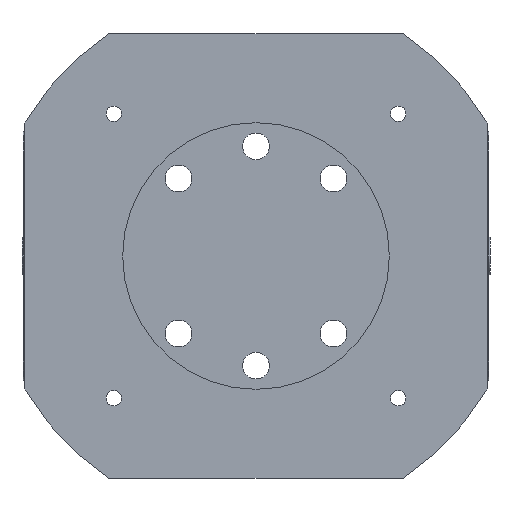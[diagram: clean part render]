
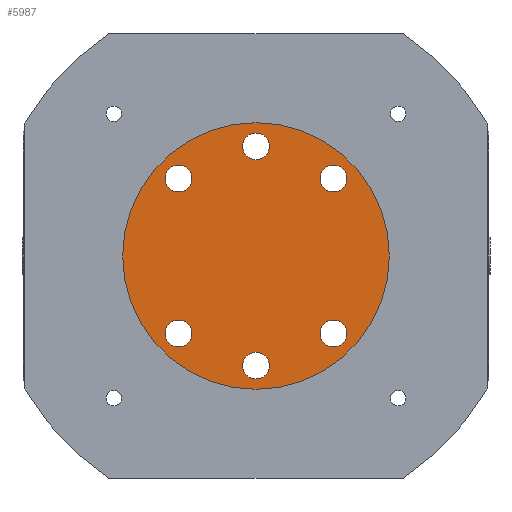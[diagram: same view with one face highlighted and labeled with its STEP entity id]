
A CAD part, front view. The second image highlights one B-rep face of the part: STEP entity #5987.
In plain terms, the highlighted planar face has unit normal (0, -1, 0).
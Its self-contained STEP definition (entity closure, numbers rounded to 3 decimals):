
#108 = FACE_BOUND ( 'NONE', #4489, .T. ) ;
#164 = VERTEX_POINT ( 'NONE', #6127 ) ;
#195 = CIRCLE ( 'NONE', #5047, 4.5 ) ;
#219 = ORIENTED_EDGE ( 'NONE', *, *, #5801, .F. ) ;
#269 = DIRECTION ( 'NONE',  ( 0., 0., -1. ) ) ;
#273 = FACE_BOUND ( 'NONE', #3047, .T. ) ;
#322 = ORIENTED_EDGE ( 'NONE', *, *, #3001, .F. ) ;
#354 = DIRECTION ( 'NONE',  ( 0., 0., -1. ) ) ;
#396 = PLANE ( 'NONE',  #4268 ) ;
#521 = DIRECTION ( 'NONE',  ( 0., -1., 0. ) ) ;
#552 = CIRCLE ( 'NONE', #6300, 4.5 ) ;
#564 = VERTEX_POINT ( 'NONE', #6238 ) ;
#625 = CARTESIAN_POINT ( 'NONE',  ( 0., 4.5, 37. ) ) ;
#675 = CARTESIAN_POINT ( 'NONE',  ( 26.163, 4.5, -26.163 ) ) ;
#706 = CIRCLE ( 'NONE', #937, 4.5 ) ;
#727 = CARTESIAN_POINT ( 'NONE',  ( 0., 4.5, 41.5 ) ) ;
#793 = CARTESIAN_POINT ( 'NONE',  ( 26.163, 4.5, 21.663 ) ) ;
#937 = AXIS2_PLACEMENT_3D ( 'NONE', #5385, #521, #2133 ) ;
#942 = CARTESIAN_POINT ( 'NONE',  ( 0., 4.5, -45.013 ) ) ;
#956 = CARTESIAN_POINT ( 'NONE',  ( 0., 4.5, 0. ) ) ;
#1021 = EDGE_CURVE ( 'NONE', #564, #3462, #3864, .T. ) ;
#1054 = FACE_BOUND ( 'NONE', #3714, .T. ) ;
#1056 = CARTESIAN_POINT ( 'NONE',  ( 0., 4.5, 0. ) ) ;
#1073 = ORIENTED_EDGE ( 'NONE', *, *, #5808, .F. ) ;
#1105 = DIRECTION ( 'NONE',  ( 0., 0., -1. ) ) ;
#1186 = DIRECTION ( 'NONE',  ( 0., -1., 0. ) ) ;
#1288 = CARTESIAN_POINT ( 'NONE',  ( -26.163, 4.5, -26.163 ) ) ;
#1379 = EDGE_LOOP ( 'NONE', ( #2804, #4626 ) ) ;
#1427 = ORIENTED_EDGE ( 'NONE', *, *, #4603, .F. ) ;
#1523 = ORIENTED_EDGE ( 'NONE', *, *, #6695, .T. ) ;
#1529 = CARTESIAN_POINT ( 'NONE',  ( 26.163, 4.5, -26.163 ) ) ;
#1568 = AXIS2_PLACEMENT_3D ( 'NONE', #6789, #4611, #6819 ) ;
#1604 = CIRCLE ( 'NONE', #4903, 4.5 ) ;
#1670 = DIRECTION ( 'NONE',  ( 0., 0., -1. ) ) ;
#1680 = EDGE_CURVE ( 'NONE', #164, #3045, #5219, .T. ) ;
#1696 = CARTESIAN_POINT ( 'NONE',  ( -26.163, 4.5, -21.663 ) ) ;
#1720 = DIRECTION ( 'NONE',  ( 0., 0., -1. ) ) ;
#1721 = DIRECTION ( 'NONE',  ( 0., -1., 0. ) ) ;
#1735 = AXIS2_PLACEMENT_3D ( 'NONE', #6915, #4165, #2481 ) ;
#1743 = EDGE_CURVE ( 'NONE', #5501, #4828, #4357, .T. ) ;
#1781 = ORIENTED_EDGE ( 'NONE', *, *, #5013, .F. ) ;
#1795 = AXIS2_PLACEMENT_3D ( 'NONE', #1288, #4582, #5613 ) ;
#1997 = VERTEX_POINT ( 'NONE', #793 ) ;
#2109 = AXIS2_PLACEMENT_3D ( 'NONE', #5203, #6877, #4622 ) ;
#2118 = VERTEX_POINT ( 'NONE', #3238 ) ;
#2133 = DIRECTION ( 'NONE',  ( 0., 0., -1. ) ) ;
#2170 = DIRECTION ( 'NONE',  ( 0., -1., 0. ) ) ;
#2340 = AXIS2_PLACEMENT_3D ( 'NONE', #1529, #5805, #6349 ) ;
#2341 = ORIENTED_EDGE ( 'NONE', *, *, #5059, .F. ) ;
#2351 = VERTEX_POINT ( 'NONE', #727 ) ;
#2368 = EDGE_CURVE ( 'NONE', #4828, #5501, #2661, .T. ) ;
#2481 = DIRECTION ( 'NONE',  ( 0., 0., -1. ) ) ;
#2612 = ORIENTED_EDGE ( 'NONE', *, *, #2684, .T. ) ;
#2661 = CIRCLE ( 'NONE', #1795, 4.5 ) ;
#2665 = CARTESIAN_POINT ( 'NONE',  ( 26.163, 4.5, -30.663 ) ) ;
#2669 = DIRECTION ( 'NONE',  ( 0., 0., -1. ) ) ;
#2684 = EDGE_CURVE ( 'NONE', #3711, #2965, #4429, .T. ) ;
#2686 = VERTEX_POINT ( 'NONE', #7044 ) ;
#2736 = DIRECTION ( 'NONE',  ( 0., -1., 0. ) ) ;
#2768 = DIRECTION ( 'NONE',  ( 0., 0., -1. ) ) ;
#2804 = ORIENTED_EDGE ( 'NONE', *, *, #1743, .F. ) ;
#2835 = EDGE_LOOP ( 'NONE', ( #3371, #1781 ) ) ;
#2858 = EDGE_LOOP ( 'NONE', ( #3796, #6455 ) ) ;
#2965 = VERTEX_POINT ( 'NONE', #942 ) ;
#3001 = EDGE_CURVE ( 'NONE', #1997, #2118, #6311, .T. ) ;
#3003 = CARTESIAN_POINT ( 'NONE',  ( 0., 4.5, -32.5 ) ) ;
#3045 = VERTEX_POINT ( 'NONE', #2665 ) ;
#3047 = EDGE_LOOP ( 'NONE', ( #1073, #322 ) ) ;
#3238 = CARTESIAN_POINT ( 'NONE',  ( 26.163, 4.5, 30.663 ) ) ;
#3371 = ORIENTED_EDGE ( 'NONE', *, *, #3554, .F. ) ;
#3462 = VERTEX_POINT ( 'NONE', #6965 ) ;
#3554 = EDGE_CURVE ( 'NONE', #2351, #5157, #3789, .T. ) ;
#3570 = AXIS2_PLACEMENT_3D ( 'NONE', #7069, #2736, #1105 ) ;
#3607 = DIRECTION ( 'NONE',  ( 0., -1., 0. ) ) ;
#3711 = VERTEX_POINT ( 'NONE', #6721 ) ;
#3714 = EDGE_LOOP ( 'NONE', ( #6878, #1427 ) ) ;
#3789 = CIRCLE ( 'NONE', #4992, 4.5 ) ;
#3796 = ORIENTED_EDGE ( 'NONE', *, *, #6863, .F. ) ;
#3822 = DIRECTION ( 'NONE',  ( 0., 0., -1. ) ) ;
#3864 = CIRCLE ( 'NONE', #2109, 4.5 ) ;
#3895 = DIRECTION ( 'NONE',  ( 0., -1., 0. ) ) ;
#4081 = AXIS2_PLACEMENT_3D ( 'NONE', #5455, #1186, #3822 ) ;
#4165 = DIRECTION ( 'NONE',  ( 0., -1., 0. ) ) ;
#4268 = AXIS2_PLACEMENT_3D ( 'NONE', #956, #3607, #354 ) ;
#4357 = CIRCLE ( 'NONE', #5864, 4.5 ) ;
#4429 = CIRCLE ( 'NONE', #5638, 45.013 ) ;
#4440 = CARTESIAN_POINT ( 'NONE',  ( 0., 4.5, 32.5 ) ) ;
#4489 = EDGE_LOOP ( 'NONE', ( #219, #2341 ) ) ;
#4537 = FACE_BOUND ( 'NONE', #2858, .T. ) ;
#4582 = DIRECTION ( 'NONE',  ( 0., -1., 0. ) ) ;
#4603 = EDGE_CURVE ( 'NONE', #3045, #164, #1604, .T. ) ;
#4611 = DIRECTION ( 'NONE',  ( 0., -1., 0. ) ) ;
#4622 = DIRECTION ( 'NONE',  ( 0., 0., -1. ) ) ;
#4626 = ORIENTED_EDGE ( 'NONE', *, *, #2368, .F. ) ;
#4634 = DIRECTION ( 'NONE',  ( 0., -1., 0. ) ) ;
#4821 = EDGE_LOOP ( 'NONE', ( #1523, #2612 ) ) ;
#4828 = VERTEX_POINT ( 'NONE', #6568 ) ;
#4903 = AXIS2_PLACEMENT_3D ( 'NONE', #675, #3895, #1720 ) ;
#4919 = CARTESIAN_POINT ( 'NONE',  ( 0., 4.5, 37. ) ) ;
#4989 = DIRECTION ( 'NONE',  ( 0., -1., 0. ) ) ;
#4992 = AXIS2_PLACEMENT_3D ( 'NONE', #4919, #4989, #1670 ) ;
#5013 = EDGE_CURVE ( 'NONE', #5157, #2351, #552, .T. ) ;
#5047 = AXIS2_PLACEMENT_3D ( 'NONE', #6332, #4634, #269 ) ;
#5059 = EDGE_CURVE ( 'NONE', #2686, #6717, #5230, .T. ) ;
#5157 = VERTEX_POINT ( 'NONE', #4440 ) ;
#5203 = CARTESIAN_POINT ( 'NONE',  ( -26.163, 4.5, 26.163 ) ) ;
#5219 = CIRCLE ( 'NONE', #2340, 4.5 ) ;
#5230 = CIRCLE ( 'NONE', #4081, 4.5 ) ;
#5385 = CARTESIAN_POINT ( 'NONE',  ( -26.163, 4.5, 26.163 ) ) ;
#5455 = CARTESIAN_POINT ( 'NONE',  ( 0., 4.5, -37. ) ) ;
#5472 = FACE_BOUND ( 'NONE', #2835, .T. ) ;
#5501 = VERTEX_POINT ( 'NONE', #1696 ) ;
#5613 = DIRECTION ( 'NONE',  ( 0., 0., -1. ) ) ;
#5638 = AXIS2_PLACEMENT_3D ( 'NONE', #1056, #5916, #2669 ) ;
#5801 = EDGE_CURVE ( 'NONE', #6717, #2686, #195, .T. ) ;
#5805 = DIRECTION ( 'NONE',  ( 0., -1., 0. ) ) ;
#5808 = EDGE_CURVE ( 'NONE', #2118, #1997, #5831, .T. ) ;
#5831 = CIRCLE ( 'NONE', #1735, 4.5 ) ;
#5864 = AXIS2_PLACEMENT_3D ( 'NONE', #6504, #2170, #7023 ) ;
#5916 = DIRECTION ( 'NONE',  ( 0., -1., 0. ) ) ;
#5987 = ADVANCED_FACE ( 'NONE', ( #108, #1054, #6000, #4537, #5472, #273, #6500 ), #396, .T. ) ;
#6000 = FACE_BOUND ( 'NONE', #1379, .T. ) ;
#6127 = CARTESIAN_POINT ( 'NONE',  ( 26.163, 4.5, -21.663 ) ) ;
#6238 = CARTESIAN_POINT ( 'NONE',  ( -26.163, 4.5, 21.663 ) ) ;
#6300 = AXIS2_PLACEMENT_3D ( 'NONE', #625, #1721, #2768 ) ;
#6311 = CIRCLE ( 'NONE', #3570, 4.5 ) ;
#6332 = CARTESIAN_POINT ( 'NONE',  ( 0., 4.5, -37. ) ) ;
#6349 = DIRECTION ( 'NONE',  ( 0., 0., -1. ) ) ;
#6455 = ORIENTED_EDGE ( 'NONE', *, *, #1021, .F. ) ;
#6500 = FACE_OUTER_BOUND ( 'NONE', #4821, .T. ) ;
#6504 = CARTESIAN_POINT ( 'NONE',  ( -26.163, 4.5, -26.163 ) ) ;
#6568 = CARTESIAN_POINT ( 'NONE',  ( -26.163, 4.5, -30.663 ) ) ;
#6665 = CIRCLE ( 'NONE', #1568, 45.013 ) ;
#6695 = EDGE_CURVE ( 'NONE', #2965, #3711, #6665, .T. ) ;
#6717 = VERTEX_POINT ( 'NONE', #3003 ) ;
#6721 = CARTESIAN_POINT ( 'NONE',  ( 0., 4.5, 45.013 ) ) ;
#6789 = CARTESIAN_POINT ( 'NONE',  ( 0., 4.5, 0. ) ) ;
#6819 = DIRECTION ( 'NONE',  ( 0., 0., -1. ) ) ;
#6863 = EDGE_CURVE ( 'NONE', #3462, #564, #706, .T. ) ;
#6877 = DIRECTION ( 'NONE',  ( 0., -1., 0. ) ) ;
#6878 = ORIENTED_EDGE ( 'NONE', *, *, #1680, .F. ) ;
#6915 = CARTESIAN_POINT ( 'NONE',  ( 26.163, 4.5, 26.163 ) ) ;
#6965 = CARTESIAN_POINT ( 'NONE',  ( -26.163, 4.5, 30.663 ) ) ;
#7023 = DIRECTION ( 'NONE',  ( 0., 0., -1. ) ) ;
#7044 = CARTESIAN_POINT ( 'NONE',  ( 0., 4.5, -41.5 ) ) ;
#7069 = CARTESIAN_POINT ( 'NONE',  ( 26.163, 4.5, 26.163 ) ) ;
